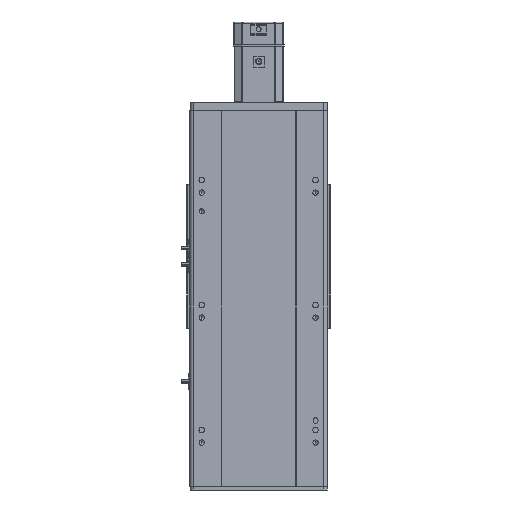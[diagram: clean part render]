
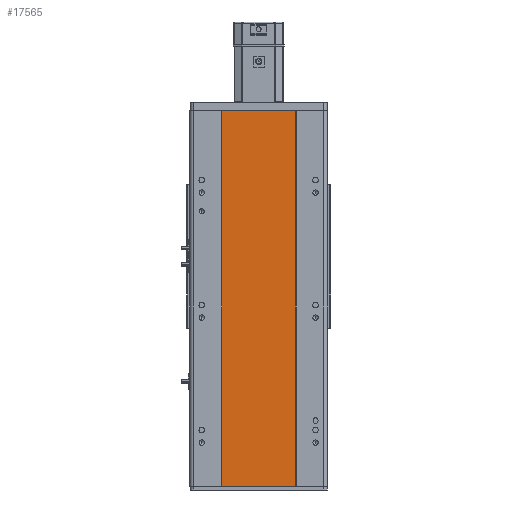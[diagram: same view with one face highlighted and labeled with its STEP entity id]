
A CAD part, front view. The second image highlights one B-rep face of the part: STEP entity #17565.
In plain terms, the highlighted planar face has unit normal (0, -1, 0).
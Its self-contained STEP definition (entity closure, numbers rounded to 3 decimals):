
#1181 = VERTEX_POINT ( 'NONE', #29175 ) ;
#2230 = EDGE_LOOP ( 'NONE', ( #25337, #11602, #11950, #3469 ) ) ;
#3469 = ORIENTED_EDGE ( 'NONE', *, *, #36020, .T. ) ;
#3691 = DIRECTION ( 'NONE',  ( -1., 0., 0. ) ) ;
#5023 = VERTEX_POINT ( 'NONE', #25720 ) ;
#5510 = DIRECTION ( 'NONE',  ( 1., 0., 0. ) ) ;
#5900 = PLANE ( 'NONE',  #13233 ) ;
#8428 = CARTESIAN_POINT ( 'NONE',  ( -59., 1., 300.5 ) ) ;
#11235 = DIRECTION ( 'NONE',  ( 0., 0., -1. ) ) ;
#11602 = ORIENTED_EDGE ( 'NONE', *, *, #13438, .F. ) ;
#11950 = ORIENTED_EDGE ( 'NONE', *, *, #33799, .F. ) ;
#12179 = VERTEX_POINT ( 'NONE', #30617 ) ;
#12682 = VECTOR ( 'NONE', #11235, 1000. ) ;
#13233 = AXIS2_PLACEMENT_3D ( 'NONE', #28920, #34421, #3691 ) ;
#13438 = EDGE_CURVE ( 'NONE', #5023, #12179, #20105, .T. ) ;
#16463 = VECTOR ( 'NONE', #19505, 1000. ) ;
#16666 = VECTOR ( 'NONE', #24314, 1000. ) ;
#17565 = ADVANCED_FACE ( 'NONE', ( #26863 ), #5900, .F. ) ;
#19505 = DIRECTION ( 'NONE',  ( 1., 0., 0. ) ) ;
#20105 = LINE ( 'NONE', #27612, #12682 ) ;
#21527 = CARTESIAN_POINT ( 'NONE',  ( -59., 1., -300.5 ) ) ;
#22047 = VECTOR ( 'NONE', #5510, 1000. ) ;
#22140 = LINE ( 'NONE', #30657, #16463 ) ;
#24314 = DIRECTION ( 'NONE',  ( 0., 0., -1. ) ) ;
#25337 = ORIENTED_EDGE ( 'NONE', *, *, #25833, .T. ) ;
#25720 = CARTESIAN_POINT ( 'NONE',  ( 59., 1., 300.5 ) ) ;
#25833 = EDGE_CURVE ( 'NONE', #34618, #12179, #22140, .T. ) ;
#26863 = FACE_OUTER_BOUND ( 'NONE', #2230, .T. ) ;
#27155 = CARTESIAN_POINT ( 'NONE',  ( -59., 1., 300.5 ) ) ;
#27612 = CARTESIAN_POINT ( 'NONE',  ( 59., 1., 300.5 ) ) ;
#28920 = CARTESIAN_POINT ( 'NONE',  ( -59., 1., 300.5 ) ) ;
#29175 = CARTESIAN_POINT ( 'NONE',  ( -59., 1., 300.5 ) ) ;
#29815 = LINE ( 'NONE', #27155, #16666 ) ;
#30617 = CARTESIAN_POINT ( 'NONE',  ( 59., 1., -300.5 ) ) ;
#30657 = CARTESIAN_POINT ( 'NONE',  ( -59., 1., -300.5 ) ) ;
#33799 = EDGE_CURVE ( 'NONE', #1181, #5023, #35667, .T. ) ;
#34421 = DIRECTION ( 'NONE',  ( 0., 1., 0. ) ) ;
#34618 = VERTEX_POINT ( 'NONE', #21527 ) ;
#35667 = LINE ( 'NONE', #8428, #22047 ) ;
#36020 = EDGE_CURVE ( 'NONE', #1181, #34618, #29815, .T. ) ;
